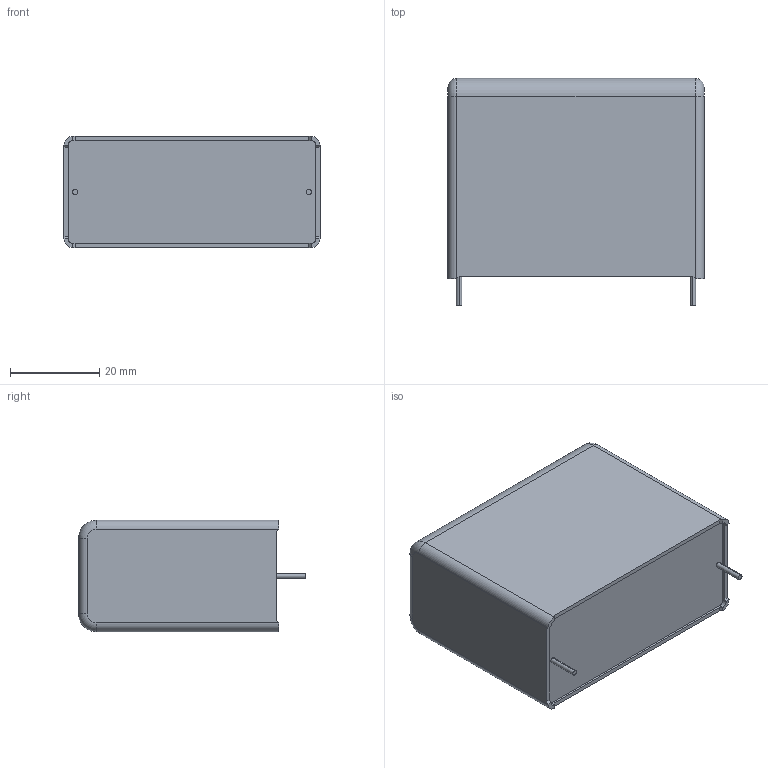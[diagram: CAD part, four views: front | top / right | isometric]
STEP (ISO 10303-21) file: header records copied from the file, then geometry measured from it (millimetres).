
FILE_DESCRIPTION (( 'STEP AP203' ), '1' );
FILE_NAME ('DC_Link_25x45x57.5_2pins.step', '2017-04-03T15:59:57', ( 'work' ), ( 'Hewlett-Packard Company' ), 'SwSTEP 2.0', 'SolidWorks 2017', '' );
FILE_SCHEMA (( 'CONFIG_CONTROL_DESIGN' ));
Length unit declared in the file: millimetre
Products named in the file (1): DC_Link_25x45x57.5_2pins
Bounding box: 57.5 x 51 x 25 mm (x, y, z)
Volume: 62766 mm3; surface area: 9955.2 mm2
Topology: 1 solids, 1 shells, 116 faces, 291 edges, 186 vertices
Faces by surface type: plane 80, cylinder 16, bspline 16, torus 4
Entity records: 4188 total; most frequent: CARTESIAN_POINT 1418, ORIENTED_EDGE 582, DIRECTION 497, EDGE_CURVE 291, LINE 223, VECTOR 223, VERTEX_POINT 186, AXIS2_PLACEMENT_3D 137
